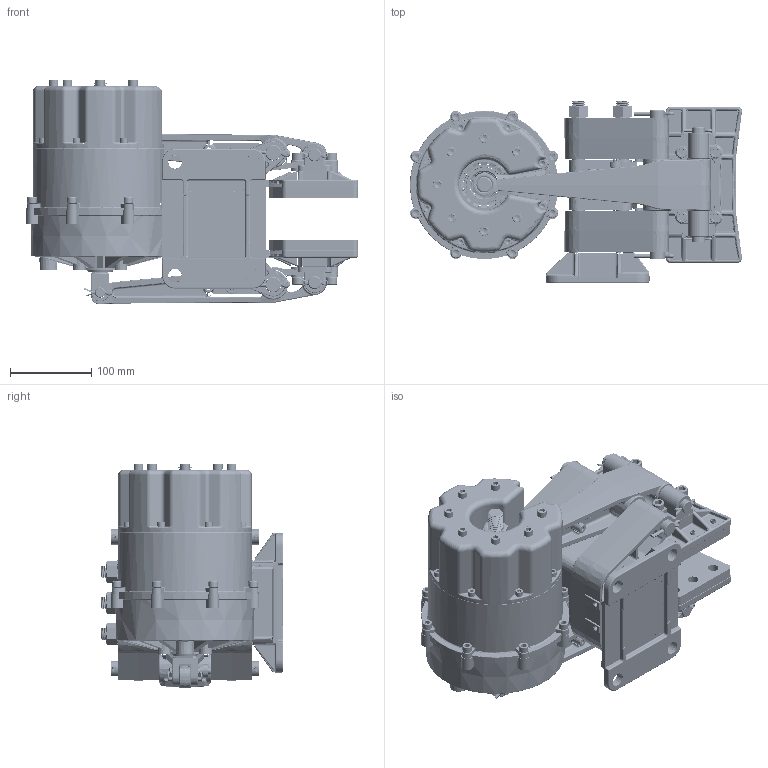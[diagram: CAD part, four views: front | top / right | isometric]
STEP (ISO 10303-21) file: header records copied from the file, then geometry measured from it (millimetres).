
FILE_DESCRIPTION (( 'STEP AP214' ), '1' );
FILE_NAME ('5023-SA-RH.STEP', '2016-06-02T17:26:01', ( 'User' ), ( 'Microsoft' ), 'SwSTEP 2.0', 'SolidWorks 2015', '' );
FILE_SCHEMA (( 'AUTOMOTIVE_DESIGN' ));
Length unit declared in the file: inch
Products named in the file (1): 5023-SA-RH
Bounding box: 407.61 x 224.03 x 275.63 mm (x, y, z)
Surface area: 857249.6 mm2 (no closed solid volume)
Topology: 0 solids, 181 shells, 4137 faces, 12812 edges, 8400 vertices
Faces by surface type: cylinder 1433, plane 1003, cone 653, bspline 539, torus 491, sphere 18
Entity records: 234299 total; most frequent: CARTESIAN_POINT 76933, DIRECTION 21133, ORIENTED_EDGE 20654, EDGE_CURVE 12657, AXIS2_PLACEMENT_3D 8448, VERTEX_POINT 8400, CIRCLE 4849, EDGE_LOOP 4522
